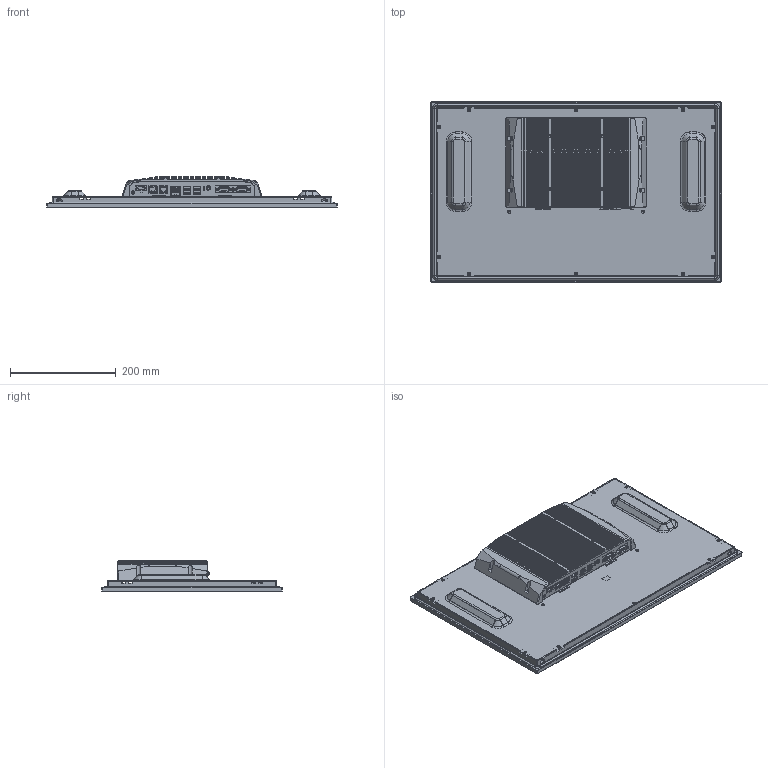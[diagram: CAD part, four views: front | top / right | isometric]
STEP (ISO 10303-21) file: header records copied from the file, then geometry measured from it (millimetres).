
FILE_DESCRIPTION (( 'STEP AP214' ), '1' );
FILE_NAME ('TPC-C215H-N S 3D蚾饜芞.STEP', '2024-08-21T06:46:35', ( 'demo' ), ( '' ), 'SwSTEP 2.0', 'SolidWorks 2016', '' );
FILE_SCHEMA (( 'AUTOMOTIVE_DESIGN' ));
Length unit declared in the file: millimetre
Products named in the file (1): TPC-C215H-N S 3D蚾饜芞
Bounding box: 550 x 342 x 58.5 mm (x, y, z)
Surface area: 928552.9 mm2 (no closed solid volume)
Topology: 0 solids, 139 shells, 1514 faces, 8294 edges, 6529 vertices
Faces by surface type: plane 885, cylinder 446, cone 112, bspline 56, torus 15
Entity records: 100147 total; most frequent: CARTESIAN_POINT 22685, DIRECTION 11871, ORIENTED_EDGE 10998, EDGE_CURVE 8268, VERTEX_POINT 6529, LINE 5873, VECTOR 5873, AXIS2_PLACEMENT_3D 2999
